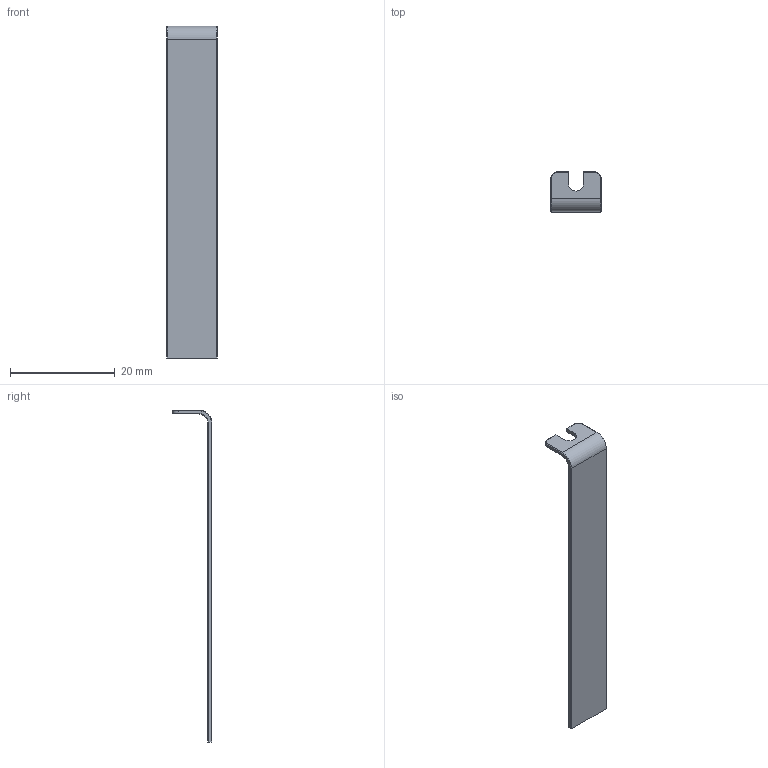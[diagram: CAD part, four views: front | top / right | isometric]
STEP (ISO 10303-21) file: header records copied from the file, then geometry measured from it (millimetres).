
FILE_DESCRIPTION (( 'STEP AP214' ), '1' );
FILE_NAME ('500-32-010.STEP', '2018-09-24T13:24:10', ( '' ), ( '' ), 'SwSTEP 2.0', 'SolidWorks 2016', '' );
FILE_SCHEMA (( 'AUTOMOTIVE_DESIGN' ));
Length unit declared in the file: inch
Products named in the file (1): 500-32-010
Bounding box: 9.65 x 7.62 x 63.5 mm (x, y, z)
Volume: 501.7 mm3; surface area: 1422.2 mm2
Topology: 1 solids, 1 shells, 36 faces, 86 edges, 52 vertices
Faces by surface type: plane 23, cone 8, cylinder 5
Entity records: 1060 total; most frequent: DIRECTION 178, CARTESIAN_POINT 175, ORIENTED_EDGE 172, EDGE_CURVE 86, LINE 68, VECTOR 68, AXIS2_PLACEMENT_3D 55, VERTEX_POINT 52
